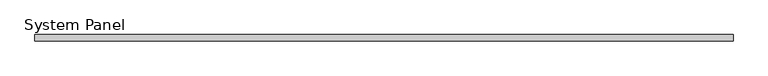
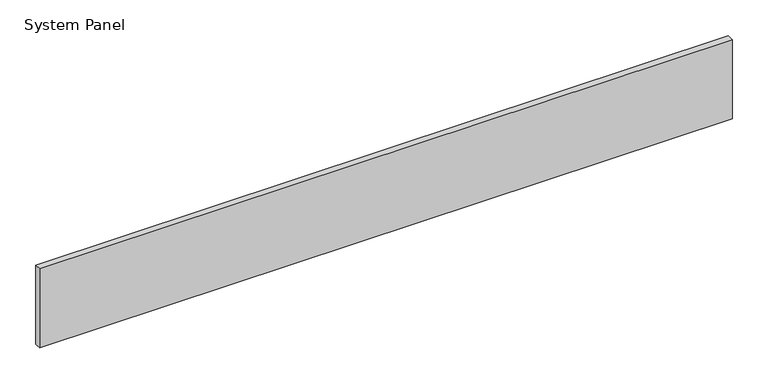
"""IFC4 building model written with IfcOpenShell, lengths in millimetres: plate geometry, System Panel : VACÍO."""

from ifc_helpers import new_model, si_unit, origin, origin_with_axes, place, context, project, spatial, polyline, outline, extrude, source, transform, mapped, element, save


def system_panel_3115ee70(model_context):
    return source(origin(), model_context, "Body", "SweptSolid", [
        extrude(outline(polyline([(555.4580072, -5.0), (-555.4580072, -5.0), (-555.4580072, 5.0), (555.4580072, 5.0), (555.4580072, -5.0)])), origin_with_axes(), (0.0, 0.0, 1.0), 134.0),
    ])


if __name__ == "__main__":
    model = new_model("IFC4")
    model_context = context("Model", 3, world=origin())
    ifc_project = project(units=[si_unit("LENGTHUNIT", "METRE", prefix="MILLI")], contexts=[model_context])
    site = spatial("IfcSite", under=ifc_project)
    building = spatial("IfcBuilding", under=site)
    placement = place(None, origin())
    system_panel_shape = system_panel_3115ee70(model_context)
    element("IfcPlate", 1, ObjectType="System Panel : VACÍO", at=placement, inside=building, context=model_context, shape_type="MappedRepresentation", body=[
        mapped(system_panel_shape, transform((0.0, 0.0, 0.0), x_axis=(1.0, 0.0, 0.0), y_axis=(0.0, 1.0, 0.0), z_axis=(0.0, 0.0, 1.0))),
    ])
    save(model, "model.ifc")
